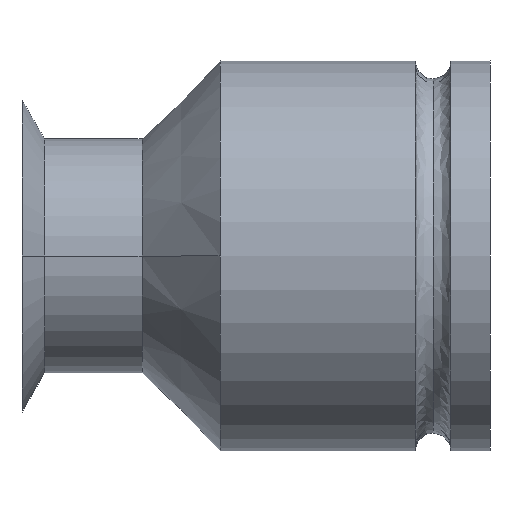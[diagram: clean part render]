
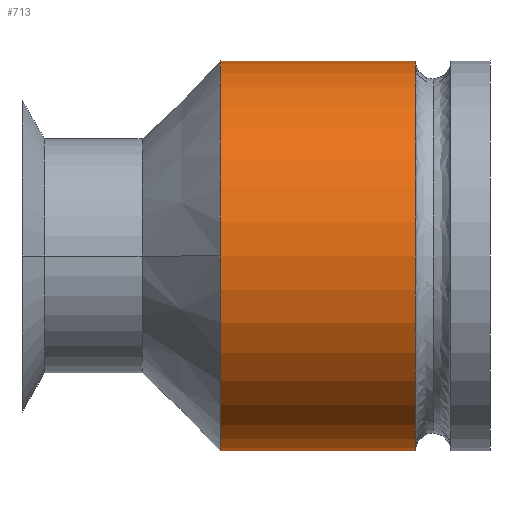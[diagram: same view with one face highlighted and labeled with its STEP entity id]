
A CAD part, front view. The second image highlights one B-rep face of the part: STEP entity #713.
In plain terms, the highlighted cylindrical face has radius 5 mm (diameter 10 mm), a partial arc.
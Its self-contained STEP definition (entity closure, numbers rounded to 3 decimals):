
#32 = ORIENTED_EDGE ( 'NONE', *, *, #576, .F. ) ;
#41 = DIRECTION ( 'NONE',  ( -1., 0., 0. ) ) ;
#50 = DIRECTION ( 'NONE',  ( 0., 0., 1. ) ) ;
#68 = CIRCLE ( 'NONE', #634, 5. ) ;
#89 = DIRECTION ( 'NONE',  ( 0., 0., 1. ) ) ;
#97 = CARTESIAN_POINT ( 'NONE',  ( 10.077, 0., 0. ) ) ;
#134 = CARTESIAN_POINT ( 'NONE',  ( 5.077, 0., 0. ) ) ;
#169 = ORIENTED_EDGE ( 'NONE', *, *, #547, .F. ) ;
#174 = VERTEX_POINT ( 'NONE', #252 ) ;
#176 = VERTEX_POINT ( 'NONE', #770 ) ;
#187 = VERTEX_POINT ( 'NONE', #768 ) ;
#211 = CIRCLE ( 'NONE', #372, 5. ) ;
#237 = CARTESIAN_POINT ( 'NONE',  ( 10.077, 0., 0. ) ) ;
#245 = EDGE_CURVE ( 'NONE', #741, #187, #635, .T. ) ;
#252 = CARTESIAN_POINT ( 'NONE',  ( 10.077, 0., -5. ) ) ;
#309 = ORIENTED_EDGE ( 'NONE', *, *, #406, .F. ) ;
#337 = DIRECTION ( 'NONE',  ( -1., 0., 0. ) ) ;
#372 = AXIS2_PLACEMENT_3D ( 'NONE', #735, #337, #796 ) ;
#374 = VECTOR ( 'NONE', #490, 1000. ) ;
#394 = DIRECTION ( 'NONE',  ( 1., 0., 0. ) ) ;
#403 = CARTESIAN_POINT ( 'NONE',  ( 10.077, 0., 5. ) ) ;
#404 = CYLINDRICAL_SURFACE ( 'NONE', #529, 5. ) ;
#406 = EDGE_CURVE ( 'NONE', #187, #761, #211, .T. ) ;
#423 = FACE_OUTER_BOUND ( 'NONE', #699, .T. ) ;
#458 = EDGE_CURVE ( 'NONE', #176, #761, #461, .T. ) ;
#461 = LINE ( 'NONE', #403, #790 ) ;
#490 = DIRECTION ( 'NONE',  ( -1., 0., 0. ) ) ;
#529 = AXIS2_PLACEMENT_3D ( 'NONE', #97, #41, #731 ) ;
#547 = EDGE_CURVE ( 'NONE', #174, #741, #751, .T. ) ;
#573 = DIRECTION ( 'NONE',  ( -1., 0., 0. ) ) ;
#576 = EDGE_CURVE ( 'NONE', #176, #174, #68, .T. ) ;
#588 = CARTESIAN_POINT ( 'NONE',  ( 5.077, 0., -5. ) ) ;
#602 = ORIENTED_EDGE ( 'NONE', *, *, #458, .T. ) ;
#604 = DIRECTION ( 'NONE',  ( -1., 0., 0. ) ) ;
#634 = AXIS2_PLACEMENT_3D ( 'NONE', #237, #394, #50 ) ;
#635 = CIRCLE ( 'NONE', #708, 5. ) ;
#671 = ORIENTED_EDGE ( 'NONE', *, *, #245, .F. ) ;
#691 = CARTESIAN_POINT ( 'NONE',  ( 10.077, 0., -5. ) ) ;
#699 = EDGE_LOOP ( 'NONE', ( #169, #32, #602, #309, #671 ) ) ;
#708 = AXIS2_PLACEMENT_3D ( 'NONE', #134, #573, #89 ) ;
#713 = ADVANCED_FACE ( 'NONE', ( #423 ), #404, .T. ) ;
#731 = DIRECTION ( 'NONE',  ( 0., 0., 1. ) ) ;
#735 = CARTESIAN_POINT ( 'NONE',  ( 5.077, 0., 0. ) ) ;
#741 = VERTEX_POINT ( 'NONE', #588 ) ;
#751 = LINE ( 'NONE', #691, #374 ) ;
#761 = VERTEX_POINT ( 'NONE', #782 ) ;
#768 = CARTESIAN_POINT ( 'NONE',  ( 5.077, -5., 0. ) ) ;
#770 = CARTESIAN_POINT ( 'NONE',  ( 10.077, 0., 5. ) ) ;
#782 = CARTESIAN_POINT ( 'NONE',  ( 5.077, 0., 5. ) ) ;
#790 = VECTOR ( 'NONE', #604, 1000. ) ;
#796 = DIRECTION ( 'NONE',  ( 0., 0., 1. ) ) ;
